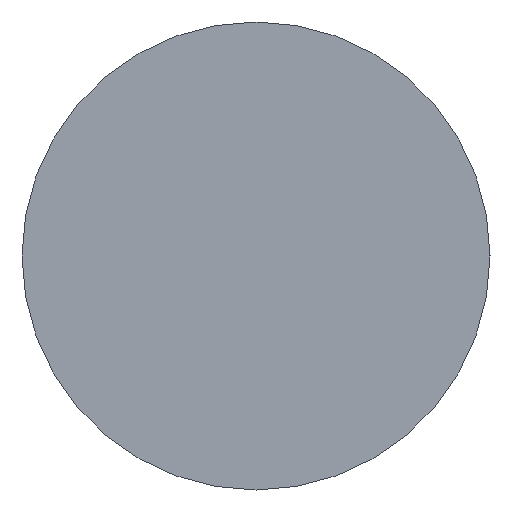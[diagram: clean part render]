
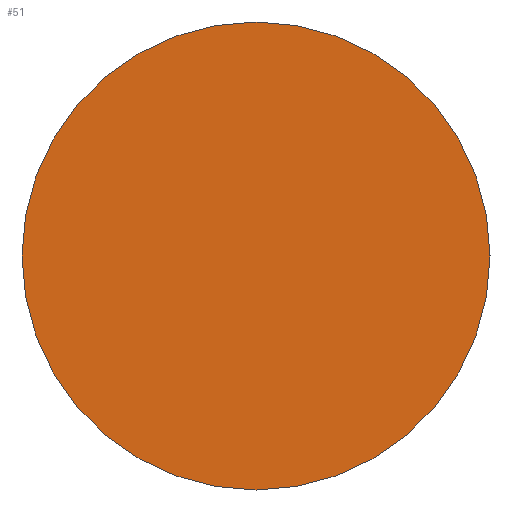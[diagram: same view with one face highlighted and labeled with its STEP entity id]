
A CAD part, left-side view. The second image highlights one B-rep face of the part: STEP entity #51.
In plain terms, the highlighted planar face has unit normal (-1, 0, 0).
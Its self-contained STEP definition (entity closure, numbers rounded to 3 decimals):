
#9 = CARTESIAN_POINT ( 'NONE',  ( 0., 0., 0. ) ) ;
#15 = EDGE_CURVE ( 'NONE', #217, #190, #36, .T. ) ;
#36 = CIRCLE ( 'NONE', #98, 5. ) ;
#48 = EDGE_CURVE ( 'NONE', #190, #217, #148, .T. ) ;
#51 = ADVANCED_FACE ( 'NONE', ( #265 ), #226, .T. ) ;
#98 = AXIS2_PLACEMENT_3D ( 'NONE', #233, #123, #263 ) ;
#118 = CARTESIAN_POINT ( 'NONE',  ( 0., -5., 0. ) ) ;
#123 = DIRECTION ( 'NONE',  ( 1., 0., 0. ) ) ;
#132 = ORIENTED_EDGE ( 'NONE', *, *, #48, .F. ) ;
#139 = AXIS2_PLACEMENT_3D ( 'NONE', #222, #186, #212 ) ;
#143 = DIRECTION ( 'NONE',  ( 0., -1., 0. ) ) ;
#148 = CIRCLE ( 'NONE', #139, 5. ) ;
#159 = EDGE_LOOP ( 'NONE', ( #132, #229 ) ) ;
#186 = DIRECTION ( 'NONE',  ( 1., 0., 0. ) ) ;
#190 = VERTEX_POINT ( 'NONE', #202 ) ;
#202 = CARTESIAN_POINT ( 'NONE',  ( 0., 5., 0. ) ) ;
#203 = AXIS2_PLACEMENT_3D ( 'NONE', #9, #215, #143 ) ;
#212 = DIRECTION ( 'NONE',  ( 0., 1., 0. ) ) ;
#215 = DIRECTION ( 'NONE',  ( -1., 0., 0. ) ) ;
#217 = VERTEX_POINT ( 'NONE', #118 ) ;
#222 = CARTESIAN_POINT ( 'NONE',  ( 0., 0., 0. ) ) ;
#226 = PLANE ( 'NONE',  #203 ) ;
#229 = ORIENTED_EDGE ( 'NONE', *, *, #15, .F. ) ;
#233 = CARTESIAN_POINT ( 'NONE',  ( 0., 0., 0. ) ) ;
#263 = DIRECTION ( 'NONE',  ( 0., 1., 0. ) ) ;
#265 = FACE_OUTER_BOUND ( 'NONE', #159, .T. ) ;
